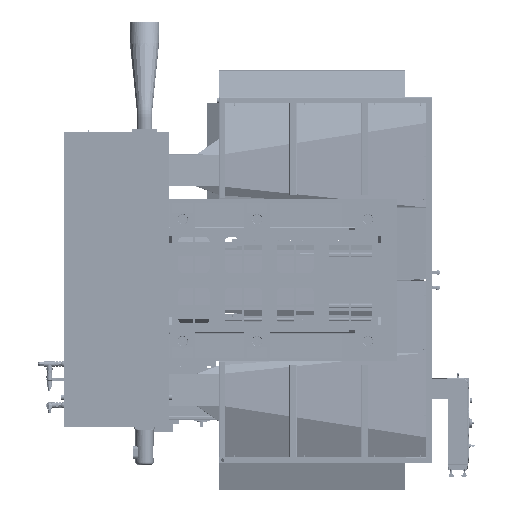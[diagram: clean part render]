
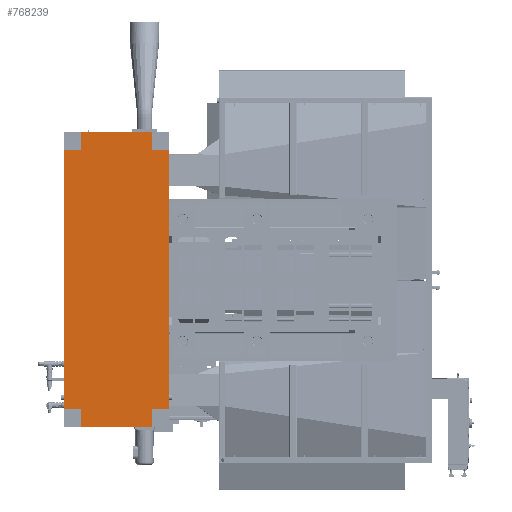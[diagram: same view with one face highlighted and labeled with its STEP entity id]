
A CAD part, front view. The second image highlights one B-rep face of the part: STEP entity #768239.
In plain terms, the highlighted planar face has unit normal (0, -1, 0).
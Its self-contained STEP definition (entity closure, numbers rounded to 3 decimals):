
#7642 = VECTOR ( 'NONE', #765600, 39.37 ) ;
#22592 = CARTESIAN_POINT ( 'NONE',  ( -92.756, 0.749, -87.264 ) ) ;
#36760 = VECTOR ( 'NONE', #728249, 39.37 ) ;
#37030 = CARTESIAN_POINT ( 'NONE',  ( -74.213, 0.749, -87.264 ) ) ;
#53759 = DIRECTION ( 'NONE',  ( 1., 0., 0. ) ) ;
#62594 = EDGE_CURVE ( 'NONE', #337657, #251277, #741633, .T. ) ;
#63155 = LINE ( 'NONE', #857428, #336688 ) ;
#76213 = CARTESIAN_POINT ( 'NONE',  ( -74.213, 0.749, -106.953 ) ) ;
#82554 = CARTESIAN_POINT ( 'NONE',  ( -97.394, 0.749, -82.54 ) ) ;
#95965 = CARTESIAN_POINT ( 'NONE',  ( -92.756, 0.749, -111.048 ) ) ;
#102142 = VERTEX_POINT ( 'NONE', #485382 ) ;
#110034 = LINE ( 'NONE', #95965, #201312 ) ;
#133222 = DIRECTION ( 'NONE',  ( 1., 0., 0. ) ) ;
#148543 = CARTESIAN_POINT ( 'NONE',  ( -69.488, 0.749, 9.35 ) ) ;
#155541 = EDGE_CURVE ( 'NONE', #362543, #747355, #347353, .T. ) ;
#163646 = VECTOR ( 'NONE', #133222, 39.37 ) ;
#191792 = EDGE_CURVE ( 'NONE', #230936, #800503, #331752, .T. ) ;
#195665 = ORIENTED_EDGE ( 'NONE', *, *, #620067, .F. ) ;
#201312 = VECTOR ( 'NONE', #561588, 39.37 ) ;
#211959 = LINE ( 'NONE', #868224, #274037 ) ;
#213766 = ORIENTED_EDGE ( 'NONE', *, *, #250964, .T. ) ;
#214287 = DIRECTION ( 'NONE',  ( 0., 0., -1. ) ) ;
#218922 = LINE ( 'NONE', #870555, #733200 ) ;
#219930 = DIRECTION ( 'NONE',  ( 1., 0., 0. ) ) ;
#227983 = CARTESIAN_POINT ( 'NONE',  ( -74.213, 0.749, -106.953 ) ) ;
#228259 = LINE ( 'NONE', #76213, #927339 ) ;
#230936 = VERTEX_POINT ( 'NONE', #593464 ) ;
#248224 = VERTEX_POINT ( 'NONE', #407180 ) ;
#250964 = EDGE_CURVE ( 'NONE', #469984, #486373, #110034, .T. ) ;
#251277 = VERTEX_POINT ( 'NONE', #937180 ) ;
#263045 = ORIENTED_EDGE ( 'NONE', *, *, #62594, .F. ) ;
#274037 = VECTOR ( 'NONE', #863541, 39.37 ) ;
#286634 = EDGE_CURVE ( 'NONE', #800503, #102142, #318634, .T. ) ;
#286645 = FACE_OUTER_BOUND ( 'NONE', #380973, .T. ) ;
#298401 = CARTESIAN_POINT ( 'NONE',  ( -81.732, 0.749, -82.54 ) ) ;
#315098 = VERTEX_POINT ( 'NONE', #82554 ) ;
#318634 = LINE ( 'NONE', #808796, #7642 ) ;
#323692 = EDGE_CURVE ( 'NONE', #102142, #488536, #228259, .T. ) ;
#331752 = LINE ( 'NONE', #550506, #708148 ) ;
#336688 = VECTOR ( 'NONE', #53759, 39.37 ) ;
#337657 = VERTEX_POINT ( 'NONE', #498007 ) ;
#345111 = DIRECTION ( 'NONE',  ( -1., 0., 0. ) ) ;
#347353 = LINE ( 'NONE', #851510, #163646 ) ;
#362543 = VERTEX_POINT ( 'NONE', #604610 ) ;
#363402 = ORIENTED_EDGE ( 'NONE', *, *, #557949, .F. ) ;
#380973 = EDGE_LOOP ( 'NONE', ( #448936, #856988, #508198, #213766, #587207, #917975, #922374, #813223, #195665, #263045, #363402, #703342 ) ) ;
#388857 = VECTOR ( 'NONE', #345111, 39.37 ) ;
#407180 = CARTESIAN_POINT ( 'NONE',  ( -92.756, 0.749, -9.311 ) ) ;
#437269 = VECTOR ( 'NONE', #727646, 39.37 ) ;
#441074 = AXIS2_PLACEMENT_3D ( 'NONE', #148543, #505390, #219930 ) ;
#448936 = ORIENTED_EDGE ( 'NONE', *, *, #155541, .F. ) ;
#462320 = EDGE_CURVE ( 'NONE', #315098, #362543, #794874, .T. ) ;
#469984 = VERTEX_POINT ( 'NONE', #580226 ) ;
#485382 = CARTESIAN_POINT ( 'NONE',  ( -74.213, 0.749, -82.54 ) ) ;
#486373 = VERTEX_POINT ( 'NONE', #22592 ) ;
#488536 = VERTEX_POINT ( 'NONE', #37030 ) ;
#498007 = CARTESIAN_POINT ( 'NONE',  ( -74.213, 0.749, -9.311 ) ) ;
#505390 = DIRECTION ( 'NONE',  ( 0., -1., 0. ) ) ;
#508198 = ORIENTED_EDGE ( 'NONE', *, *, #577626, .F. ) ;
#539790 = EDGE_CURVE ( 'NONE', #488536, #486373, #573249, .T. ) ;
#550506 = CARTESIAN_POINT ( 'NONE',  ( -69.575, 0.749, 9.35 ) ) ;
#557949 = EDGE_CURVE ( 'NONE', #248224, #337657, #63155, .T. ) ;
#559426 = EDGE_CURVE ( 'NONE', #248224, #747355, #218922, .T. ) ;
#561588 = DIRECTION ( 'NONE',  ( 0., 0., -1. ) ) ;
#573249 = LINE ( 'NONE', #939459, #388857 ) ;
#577626 = EDGE_CURVE ( 'NONE', #469984, #315098, #673999, .T. ) ;
#580226 = CARTESIAN_POINT ( 'NONE',  ( -92.756, 0.749, -82.54 ) ) ;
#587207 = ORIENTED_EDGE ( 'NONE', *, *, #539790, .F. ) ;
#590165 = CARTESIAN_POINT ( 'NONE',  ( -97.394, 0.749, 9.35 ) ) ;
#593464 = CARTESIAN_POINT ( 'NONE',  ( -69.575, 0.749, -14.036 ) ) ;
#604610 = CARTESIAN_POINT ( 'NONE',  ( -97.394, 0.749, -14.036 ) ) ;
#620067 = EDGE_CURVE ( 'NONE', #251277, #230936, #211959, .T. ) ;
#629186 = CARTESIAN_POINT ( 'NONE',  ( -69.575, 0.749, -82.54 ) ) ;
#631216 = DIRECTION ( 'NONE',  ( 0., 0., -1. ) ) ;
#673999 = LINE ( 'NONE', #298401, #737518 ) ;
#703342 = ORIENTED_EDGE ( 'NONE', *, *, #559426, .T. ) ;
#708148 = VECTOR ( 'NONE', #631216, 39.37 ) ;
#727646 = DIRECTION ( 'NONE',  ( 0., 0., -1. ) ) ;
#728249 = DIRECTION ( 'NONE',  ( 0., 0., 1. ) ) ;
#733200 = VECTOR ( 'NONE', #775793, 39.37 ) ;
#737518 = VECTOR ( 'NONE', #821327, 39.37 ) ;
#741633 = LINE ( 'NONE', #227983, #437269 ) ;
#747355 = VERTEX_POINT ( 'NONE', #813860 ) ;
#765600 = DIRECTION ( 'NONE',  ( -1., 0., 0. ) ) ;
#768239 = ADVANCED_FACE ( 'NONE', ( #286645 ), #866853, .T. ) ;
#775793 = DIRECTION ( 'NONE',  ( 0., 0., -1. ) ) ;
#794874 = LINE ( 'NONE', #590165, #36760 ) ;
#800503 = VERTEX_POINT ( 'NONE', #629186 ) ;
#808796 = CARTESIAN_POINT ( 'NONE',  ( -60.543, 0.749, -82.54 ) ) ;
#813223 = ORIENTED_EDGE ( 'NONE', *, *, #191792, .F. ) ;
#813860 = CARTESIAN_POINT ( 'NONE',  ( -92.756, 0.749, -14.036 ) ) ;
#821327 = DIRECTION ( 'NONE',  ( -1., 0., 0. ) ) ;
#851510 = CARTESIAN_POINT ( 'NONE',  ( -81.732, 0.749, -14.036 ) ) ;
#856988 = ORIENTED_EDGE ( 'NONE', *, *, #462320, .F. ) ;
#857428 = CARTESIAN_POINT ( 'NONE',  ( -85.236, 0.749, -9.311 ) ) ;
#863541 = DIRECTION ( 'NONE',  ( 1., 0., 0. ) ) ;
#866853 = PLANE ( 'NONE',  #441074 ) ;
#868224 = CARTESIAN_POINT ( 'NONE',  ( -60.543, 0.749, -14.036 ) ) ;
#870555 = CARTESIAN_POINT ( 'NONE',  ( -92.756, 0.749, -125.615 ) ) ;
#917975 = ORIENTED_EDGE ( 'NONE', *, *, #323692, .F. ) ;
#922374 = ORIENTED_EDGE ( 'NONE', *, *, #286634, .F. ) ;
#927339 = VECTOR ( 'NONE', #214287, 39.37 ) ;
#937180 = CARTESIAN_POINT ( 'NONE',  ( -74.213, 0.749, -14.036 ) ) ;
#939459 = CARTESIAN_POINT ( 'NONE',  ( -85.236, 0.749, -87.264 ) ) ;
